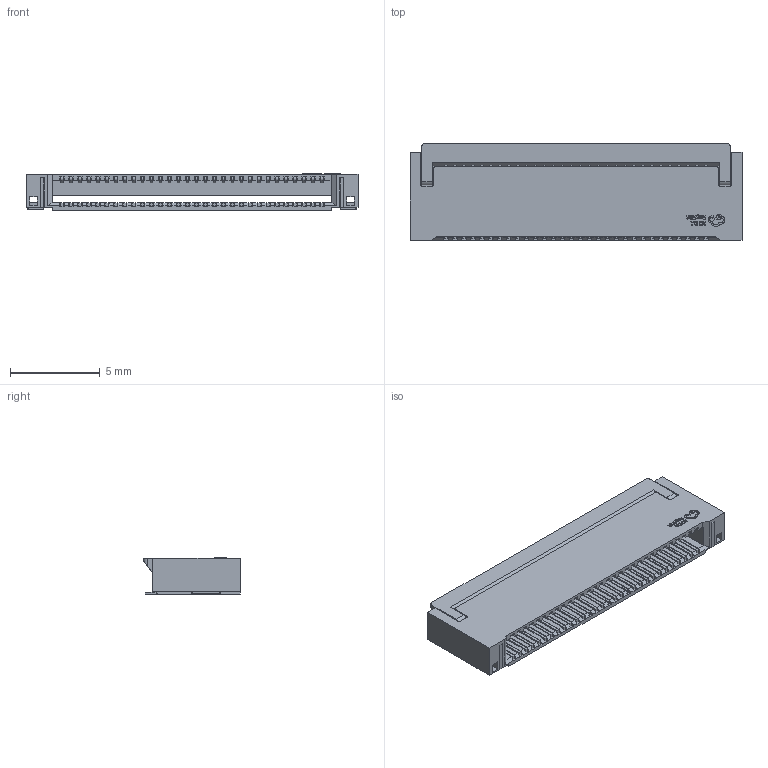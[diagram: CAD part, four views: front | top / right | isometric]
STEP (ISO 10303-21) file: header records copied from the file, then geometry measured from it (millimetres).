
FILE_DESCRIPTION (( 'STEP AP214' ), '1' );
FILE_NAME ('FPC-SMD_30P-P0.50_FPC-05FB-30PH20.step', '2022-07-06T09:48:10', ( '' ), ( '' ), 'SwSTEP 2.0', 'SolidWorks 2020', '' );
FILE_SCHEMA (( 'AUTOMOTIVE_DESIGN' ));
Length unit declared in the file: millimetre
Products named in the file (1): FPC-SMD_30P-P0.50_FPC-05FB-30PH20
Bounding box: 18.5 x 5.4 x 2.01 mm (x, y, z)
Volume: 79.1 mm3; surface area: 795 mm2
Topology: 64 solids, 64 shells, 1224 faces, 3230 edges, 2152 vertices
Faces by surface type: plane 1062, bspline 110, cylinder 52
Entity records: 52597 total; most frequent: CARTESIAN_POINT 8795, ORIENTED_EDGE 6460, DIRECTION 5340, EDGE_CURVE 3230, VECTOR 2898, LINE 2898, VERTEX_POINT 2152, UNCERTAINTY_MEASURE_WITH_UNIT 1290
